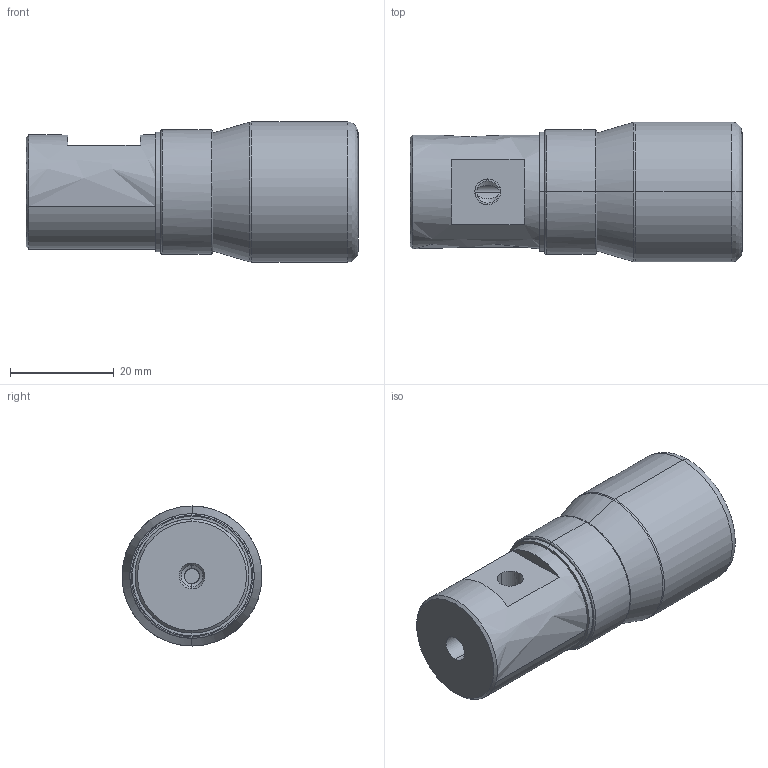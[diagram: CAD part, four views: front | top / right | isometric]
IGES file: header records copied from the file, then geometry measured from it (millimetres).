
Start section: ------------------------------------------------------------------------
Global section: file name: D:\ICADMX\tmp\trans3d_spg\TGMX25.1844.RBP022RCA_23318.igs; native system: spGate; preprocessor: ver11.3.7; author: Unknown; organization: Unknown; date: 150330.151303; units: millimetre
Bounding box: 64 x 26.95 x 27 mm (x, y, z)
Volume: 28075 mm3; surface area: 6653.4 mm2
Topology: 1 solids, 1 shells, 50 faces, 109 edges, 67 vertices
Faces by surface type: bspline 50
